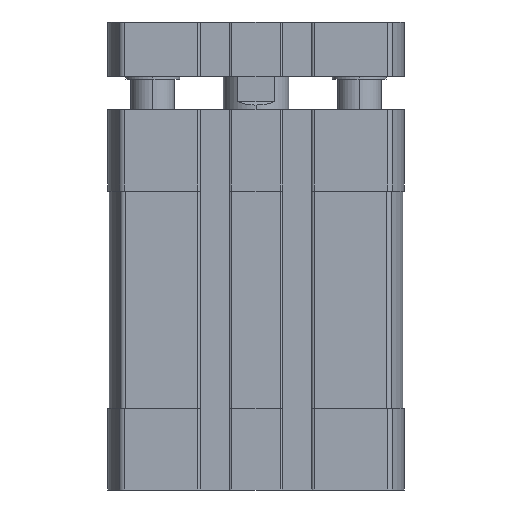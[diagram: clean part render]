
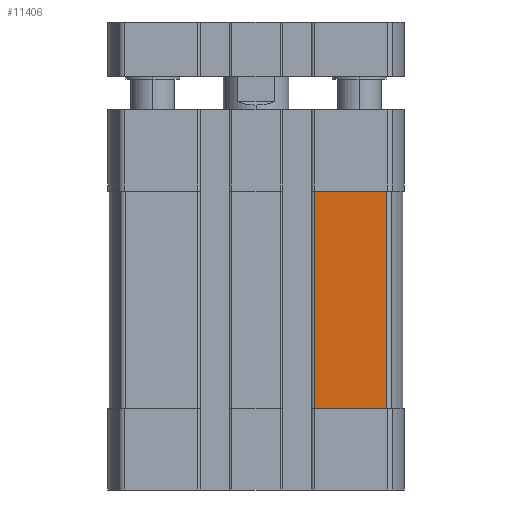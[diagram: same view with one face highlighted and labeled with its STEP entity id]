
A CAD part, front view. The second image highlights one B-rep face of the part: STEP entity #11406.
In plain terms, the highlighted planar face has unit normal (0, -1, 0).
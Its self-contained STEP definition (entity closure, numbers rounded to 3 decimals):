
#96 = VECTOR ( 'NONE', #3860, 1000. ) ;
#142 = VERTEX_POINT ( 'NONE', #770 ) ;
#770 = CARTESIAN_POINT ( 'NONE',  ( 24.093, -27., -55. ) ) ;
#1697 = PLANE ( 'NONE',  #14608 ) ;
#1920 = CARTESIAN_POINT ( 'NONE',  ( 10.7, -27., -55. ) ) ;
#2808 = EDGE_CURVE ( 'NONE', #3024, #11876, #6197, .T. ) ;
#3016 = EDGE_CURVE ( 'NONE', #3024, #142, #10317, .T. ) ;
#3024 = VERTEX_POINT ( 'NONE', #1920 ) ;
#3860 = DIRECTION ( 'NONE',  ( 1., 0., 0. ) ) ;
#4852 = CARTESIAN_POINT ( 'NONE',  ( 10.7, -27., -15. ) ) ;
#5010 = ORIENTED_EDGE ( 'NONE', *, *, #7254, .T. ) ;
#5274 = CARTESIAN_POINT ( 'NONE',  ( 10.7, -27., -55. ) ) ;
#5384 = FACE_OUTER_BOUND ( 'NONE', #7451, .T. ) ;
#6113 = ORIENTED_EDGE ( 'NONE', *, *, #2808, .F. ) ;
#6197 = LINE ( 'NONE', #18303, #9219 ) ;
#7067 = EDGE_CURVE ( 'NONE', #11876, #10795, #8296, .T. ) ;
#7254 = EDGE_CURVE ( 'NONE', #142, #10795, #21032, .T. ) ;
#7322 = ORIENTED_EDGE ( 'NONE', *, *, #7067, .F. ) ;
#7324 = CARTESIAN_POINT ( 'NONE',  ( 24.093, -27., -55. ) ) ;
#7451 = EDGE_LOOP ( 'NONE', ( #7322, #6113, #20080, #5010 ) ) ;
#8296 = LINE ( 'NONE', #4852, #10502 ) ;
#9219 = VECTOR ( 'NONE', #21872, 1000. ) ;
#9383 = VECTOR ( 'NONE', #10706, 1000. ) ;
#10162 = DIRECTION ( 'NONE',  ( 1., 0., 0. ) ) ;
#10317 = LINE ( 'NONE', #19721, #96 ) ;
#10502 = VECTOR ( 'NONE', #10162, 1000. ) ;
#10706 = DIRECTION ( 'NONE',  ( 0., 0., 1. ) ) ;
#10795 = VERTEX_POINT ( 'NONE', #17358 ) ;
#11406 = ADVANCED_FACE ( 'NONE', ( #5384 ), #1697, .T. ) ;
#11876 = VERTEX_POINT ( 'NONE', #15681 ) ;
#14608 = AXIS2_PLACEMENT_3D ( 'NONE', #5274, #15955, #17897 ) ;
#15681 = CARTESIAN_POINT ( 'NONE',  ( 10.7, -27., -15. ) ) ;
#15955 = DIRECTION ( 'NONE',  ( 0., -1., 0. ) ) ;
#17358 = CARTESIAN_POINT ( 'NONE',  ( 24.093, -27., -15. ) ) ;
#17897 = DIRECTION ( 'NONE',  ( 0., 0., 1. ) ) ;
#18303 = CARTESIAN_POINT ( 'NONE',  ( 10.7, -27., -55. ) ) ;
#19721 = CARTESIAN_POINT ( 'NONE',  ( 10.7, -27., -55. ) ) ;
#20080 = ORIENTED_EDGE ( 'NONE', *, *, #3016, .T. ) ;
#21032 = LINE ( 'NONE', #7324, #9383 ) ;
#21872 = DIRECTION ( 'NONE',  ( 0., 0., 1. ) ) ;
